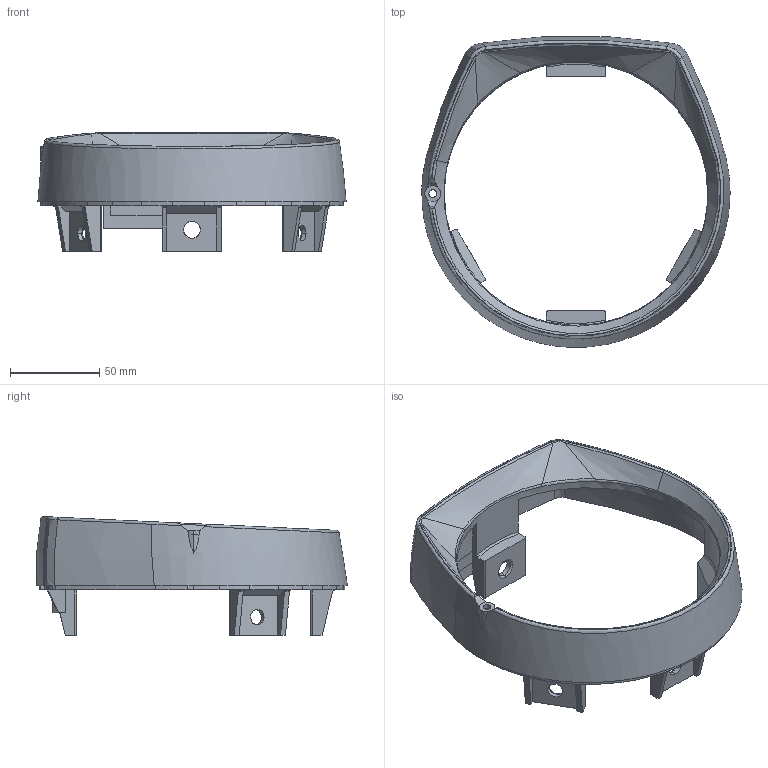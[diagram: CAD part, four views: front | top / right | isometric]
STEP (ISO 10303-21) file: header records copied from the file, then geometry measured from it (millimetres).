
FILE_DESCRIPTION(('CATIA V5 STEP Exchange','CAx-IF Rec.Pracs.--- Composite Materials ---3.4---2017-06-13'),'2;1');
FILE_NAME('C:\Users\ondra\Desktop\VYROBEK MASLIK.stp','2025-05-15T17:36:54+00:00',('none'),('none'),'CATIA Version 5-6 Release 2020 SP6','CATIA V5 STEP AP203 v2','none');
FILE_SCHEMA(('CONFIG_CONTROL_DESIGN'));
Products named in the file (1): Vyrobek
Bounding box: 172.28 x 173.78 x 66.42 mm (x, y, z)
Volume: 126718.8 mm3; surface area: 76285.7 mm2
Topology: 1 solids, 1 shells, 266 faces, 840 edges, 568 vertices
Faces by surface type: bspline 184, plane 70, cylinder 11, sphere 1
Entity records: 41311 total; most frequent: CARTESIAN_POINT 35788, ORIENTED_EDGE 1676, EDGE_CURVE 838, VERTEX_POINT 568, B_SPLINE_CURVE_WITH_KNOTS 560, DIRECTION 323, EDGE_LOOP 276, ADVANCED_FACE 266
